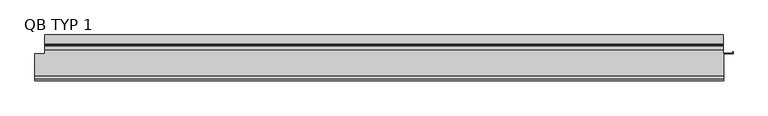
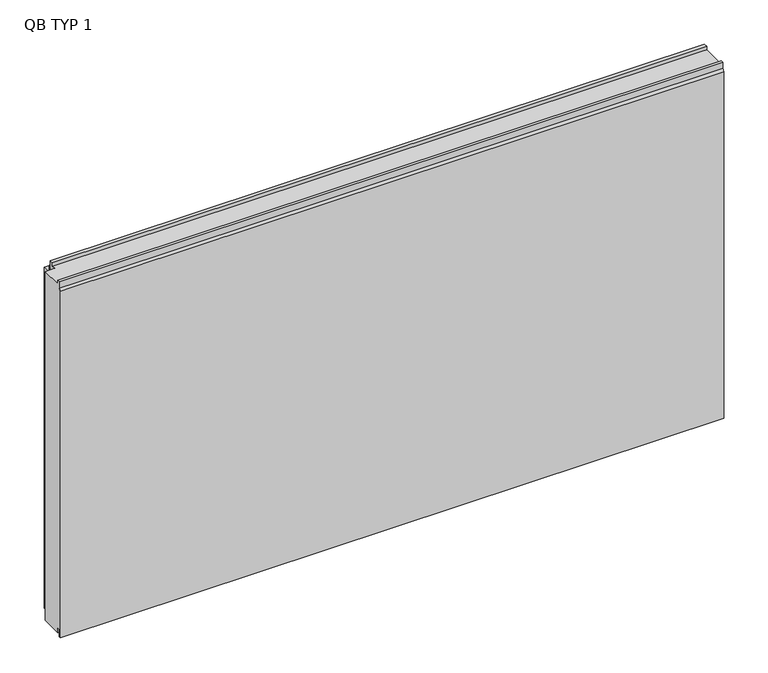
"""IFC4 building model written with IfcOpenShell, lengths in millimetres: plate geometry, TR_C_H_QBISS_Panel : QB TYP 1."""

import ifcopenshell
import ifcopenshell.guid

model = None  # the IFC model being written
_history = None  # IfcOwnerHistory: only IFC2X3 demands one
_inside = {}  # id of a spatial element -> (the spatial element, [elements in it])
_under = {}  # id of a project, library or spatial element -> (it, [spatial elements below it])
_declared = {}  # id of a project -> (the project, [libraries it declares])
_typed = {}  # id of a type object -> (the type object, [elements of that type])
_made_of = {}  # id of a material, layer set ... -> (it, [elements and type objects made of it])


def new_model(schema):
    """Start an empty IFC model of exactly this schema.

    Asked for "IFC4X3", IfcOpenShell would pick the latest addendum, in which some entities
    have other attributes; the version numbers below select the first issue.
    IFC2X3 requires an IfcOwnerHistory on every rooted entity: one is made here for all.
    """
    global model, _history
    if schema == "IFC4X3":
        model = ifcopenshell.file(schema_version=(4, 3, 0, 0))
    else:
        model = ifcopenshell.file(schema=schema)
    _inside.clear()
    _under.clear()
    _declared.clear()
    _typed.clear()
    _made_of.clear()
    _history = None
    if model.schema == "IFC2X3":
        org = make("IfcOrganization", Name="unknown")
        user = make(
            "IfcPersonAndOrganization",
            ThePerson=make("IfcPerson", FamilyName="unknown"),
            TheOrganization=org,
        )
        app = make(
            "IfcApplication",
            ApplicationDeveloper=org,
            Version="unknown",
            ApplicationFullName="unknown",
            ApplicationIdentifier="unknown",
        )
        _history = make(
            "IfcOwnerHistory",
            OwningUser=user,
            OwningApplication=app,
            ChangeAction="ADDED",
            CreationDate=0,
        )
    return model


def make(cls, **values):
    """One entity of the class cls with the attributes given. An attribute that is None is left unset."""
    return model.create_entity(
        cls, **{name: value for name, value in values.items() if value is not None}
    )


def rooted(cls, **values):
    """An entity with a GlobalId (a new one), such as an element, a storey or a relation."""
    return make(cls, GlobalId=ifcopenshell.guid.new(), OwnerHistory=_history, **values)


def si_unit(unit_type, name, prefix=None):
    """IfcSIUnit, for example si_unit("LENGTHUNIT", "METRE", prefix="MILLI")."""
    return make("IfcSIUnit", UnitType=unit_type, Prefix=prefix, Name=name)


def assignment(units):
    """IfcUnitAssignment: the units of a project."""
    return None if units is None else make("IfcUnitAssignment", Units=units)


def point(xyz):
    """IfcCartesianPoint."""
    return None if xyz is None else make("IfcCartesianPoint", Coordinates=xyz)


def direction(xyz):
    """IfcDirection."""
    return None if xyz is None else make("IfcDirection", DirectionRatios=xyz)


def frame(location, z_axis=None, x_axis=None):
    """IfcAxis2Placement3D, a coordinate frame: its origin and axes. An axis left out is left unset."""
    return make(
        "IfcAxis2Placement3D",
        Location=point(location),
        Axis=direction(z_axis),
        RefDirection=direction(x_axis),
    )


def origin():
    """The frame at (0, 0, 0) with its axes left unset."""
    return frame((0.0, 0.0, 0.0))


def place(relative_to, where):
    """IfcLocalPlacement: puts the frame where relative to a parent placement (None: the world)."""
    return make(
        "IfcLocalPlacement", PlacementRelTo=relative_to, RelativePlacement=where
    )


def context(
    kind, dimensions, precision=None, world=None, true_north=None, identifier=None
):
    """IfcGeometricRepresentationContext, for example the 3D "Model" context."""
    return make(
        "IfcGeometricRepresentationContext",
        ContextIdentifier=identifier,
        ContextType=kind,
        CoordinateSpaceDimension=dimensions,
        Precision=precision,
        WorldCoordinateSystem=world,
        TrueNorth=true_north,
    )


def project(units=None, contexts=None):
    """IfcProject with its units and contexts."""
    return rooted(
        "IfcProject",
        Name="project",
        RepresentationContexts=contexts,
        UnitsInContext=assignment(units),
    )


def spatial(cls, under=None, at=None, **own):
    """A site, building, storey or space (cls), placed at a placement, below another one or the project."""
    s = rooted(cls, ObjectPlacement=at, **own)
    if under is not None:
        _under.setdefault(under.id(), (under, []))[1].append(s)
    return s


def polyline(points):
    """IfcPolyline through the points."""
    return make("IfcPolyline", Points=[point(p) for p in points])


def outline(outer, holes=None, kind="AREA"):
    """IfcArbitraryClosedProfileDef: a profile drawn as a closed curve; with holes, ...WithVoids."""
    if holes is None:
        return make("IfcArbitraryClosedProfileDef", ProfileType=kind, OuterCurve=outer)
    return make(
        "IfcArbitraryProfileDefWithVoids",
        ProfileType=kind,
        OuterCurve=outer,
        InnerCurves=holes,
    )


def extrude(swept, where, along, depth):
    """IfcExtrudedAreaSolid: the profile swept, set in the frame where, extruded along a direction by depth."""
    return make(
        "IfcExtrudedAreaSolid",
        SweptArea=swept,
        Position=where,
        ExtrudedDirection=direction(along),
        Depth=depth,
    )


def faces_of(points, faces, orient=None, outer=None):
    """IfcFace entities. A face is a list of loops; a loop is a list of indices into points, from 0.

    orient and outer hold one flag for each loop. By default every Orientation is true, the
    first loop of a face is its IfcFaceOuterBound and the others are IfcFaceBound.
    """
    made = []
    for i, loops in enumerate(faces):
        bounds = []
        for j, loop in enumerate(loops):
            is_outer = j == 0 if outer is None else outer[i][j]
            bounds.append(
                make(
                    "IfcFaceOuterBound" if is_outer else "IfcFaceBound",
                    Bound=make("IfcPolyLoop", Polygon=[points[k] for k in loop]),
                    Orientation=True if orient is None else orient[i][j],
                )
            )
        made.append(make("IfcFace", Bounds=bounds))
    return made


def faceted_brep(points, faces, orient=None, outer=None, voids=None):
    """IfcFacetedBrep: a solid bounded by flat faces; with voids (closed shells), ...WithVoids."""
    shared = [point(p) for p in points]
    hull = make("IfcClosedShell", CfsFaces=faces_of(shared, faces, orient, outer))
    if voids is None:
        return make("IfcFacetedBrep", Outer=hull)
    return make(
        "IfcFacetedBrepWithVoids",
        Outer=hull,
        Voids=[
            make(cls, CfsFaces=faces_of(shared, fs, o, b)) for cls, fs, o, b in voids
        ],
    )


def shape(context_of_items, identifier, shape_type, items):
    """IfcShapeRepresentation: the items that make up one representation, for example the "Body"."""
    return make(
        "IfcShapeRepresentation",
        ContextOfItems=context_of_items,
        RepresentationIdentifier=identifier,
        RepresentationType=shape_type,
        Items=items,
    )


def source(mapping_origin, context_of_items, identifier, shape_type, items):
    """IfcRepresentationMap: a shape defined once, which mapped items show again and again."""
    return make(
        "IfcRepresentationMap",
        MappingOrigin=mapping_origin,
        MappedRepresentation=shape(context_of_items, identifier, shape_type, items),
    )


def transform(
    local_origin,
    x_axis=None,
    y_axis=None,
    z_axis=None,
    scale=None,
    scale2=None,
    scale3=None,
    uniform=True,
):
    """IfcCartesianTransformationOperator3D, or its non-uniform kind. x_axis, y_axis, z_axis: its Axis1, 2, 3."""
    if uniform:
        return make(
            "IfcCartesianTransformationOperator3D",
            Axis1=direction(x_axis),
            Axis2=direction(y_axis),
            LocalOrigin=point(local_origin),
            Scale=scale,
            Axis3=direction(z_axis),
        )
    return make(
        "IfcCartesianTransformationOperator3DnonUniform",
        Axis1=direction(x_axis),
        Axis2=direction(y_axis),
        LocalOrigin=point(local_origin),
        Scale=scale,
        Axis3=direction(z_axis),
        Scale2=scale2,
        Scale3=scale3,
    )


def mapped(mapping_source, mapping_target):
    """IfcMappedItem: shows the shape of a source again, moved by a transform."""
    return make(
        "IfcMappedItem", MappingSource=mapping_source, MappingTarget=mapping_target
    )


def made_of(thing, what):
    """Note that an element or type object is made of a material, layer set ...; save() writes the relation."""
    if what is not None:
        _made_of.setdefault(what.id(), (what, []))[1].append(thing)
    return thing


def element(
    cls,
    number,
    at=None,
    inside=None,
    cuts=None,
    type_object=None,
    material=None,
    context=None,
    identifier="Body",
    shape_type=None,
    held_by="IfcProductDefinitionShape",
    body=None,
    shapes=None,
    **own,
):
    """One element of the class cls, such as IfcWall. Its Tag is "e" and its number.

    at: its placement. inside: the storey or other place that contains it. cuts: it is an
    opening in that element (IfcRelVoidsElement). A single representation is given by context,
    identifier, shape_type and body (its items); several are given by shapes. held_by: the class
    of the entity that holds the representations. save() writes the other relations.
    """
    e = rooted(cls, Tag="e%d" % number, ObjectPlacement=at, **own)
    if body is not None:
        shapes = [shape(context, identifier, shape_type, body)]
    if shapes is not None:
        e.Representation = make(held_by, Representations=shapes)
    if inside is not None:
        _inside.setdefault(inside.id(), (inside, []))[1].append(e)
    if cuts is not None:
        rooted(
            "IfcRelVoidsElement", RelatingBuildingElement=cuts, RelatedOpeningElement=e
        )
    if type_object is not None:
        _typed.setdefault(type_object.id(), (type_object, []))[1].append(e)
    return made_of(e, material)


def aggregate(whole, parts):
    """IfcRelAggregates: a whole, such as a stair, and the parts it consists of."""
    return rooted("IfcRelAggregates", RelatingObject=whole, RelatedObjects=parts)


def save(model, path):
    """Write the relations noted so far, then the file.

    IfcRelAggregates (storeys below a building ...), IfcRelContainedInSpatialStructure (elements
    in a storey), IfcRelDefinesByType, IfcRelAssociatesMaterial and IfcRelDeclares: one each for
    every whole, place, type object, material and project.
    """
    for whole, parts in _under.values():
        aggregate(whole, parts)
    for where, things in _inside.values():
        rooted(
            "IfcRelContainedInSpatialStructure",
            RelatedElements=things,
            RelatingStructure=where,
        )
    for kind, things in _typed.values():
        rooted("IfcRelDefinesByType", RelatedObjects=things, RelatingType=kind)
    for what, things in _made_of.values():
        rooted("IfcRelAssociatesMaterial", RelatedObjects=things, RelatingMaterial=what)
    for by, libraries in _declared.values():
        rooted("IfcRelDeclares", RelatingContext=by, RelatedDefinitions=libraries)
    model.write(path)


def qb_typ_1_eb4f195e(model_context):
    return source(origin(), model_context, "Body", "SolidModel", [
        extrude(outline(polyline([(912.5, -49.0), (887.3, -49.0), (887.3, -48.2), (911.7, -48.2), (911.7, -44.0), (912.5, -44.0), (912.5, -49.0)])), frame((0.0, 0.0, 54.0), z_axis=(0.0, 0.0, 1.0), x_axis=(1.0, 0.0, 0.0)), (0.0, 0.0, 1.0), 862.0),
        faceted_brep([(887.5, -108.0, 1000.0), (887.5, -108.0, 1010.0), (887.5, -114.0, 1010.0), (887.5, -114.0, 992.0), (887.5, -120.0, 986.0), (887.5, -120.0, -8.0), (887.5, -114.0, -8.0), (887.5, -114.0, 13.0), (887.5, -108.0, 13.0), (887.5, -108.0, 0.0), (887.5, -49.0, 0.0), (887.5, -49.0, 1000.0), (-912.4, -108.0, 0.0), (-912.4, -108.0, 13.0), (-912.4, -114.0, 13.0), (-912.4, -114.0, -8.0), (-912.4, -120.0, -8.0), (-912.4, -120.0, 986.0), (-912.4, -114.0, 992.0), (-912.4, -114.0, 1010.0), (-912.4, -108.0, 1010.0), (-912.4, -108.0, 1000.0), (-912.4, -49.0, 1000.0), (-912.4, -49.0, 0.0), (-887.3, -49.0, 0.0), (-887.3, -39.0, 0.0), (887.3, -39.0, 0.0), (887.3, -49.0, 0.0), (-887.3, -39.0, 13.0), (887.3, -39.0, 13.0), (-887.3, -29.0, 13.0), (887.3, -29.0, 13.0), (-887.3, -29.0, -4.0), (887.3, -29.0, -4.0), (-887.3, 0.0, -4.0), (887.3, 0.0, -4.0), (-887.3, 0.0, 973.0), (887.3, 0.0, 973.0), (-887.3, -29.0, 973.0), (887.3, -29.0, 973.0), (-887.3, -29.0, 1010.0), (887.3, -29.0, 1010.0), (-887.3, -39.0, 1010.0), (887.3, -39.0, 1010.0), (-887.3, -39.0, 1000.0), (887.3, -39.0, 1000.0), (887.3, -49.0, 1000.0), (-887.3, -49.0, 1000.0)], [[[0, 1, 2, 3, 4, 5, 6, 7, 8, 9, 10, 11]], [[12, 13, 14, 15, 16, 17, 18, 19, 20, 21, 22, 23]], [[9, 12, 23, 24, 25, 26, 27, 10]], [[26, 25, 28, 29]], [[29, 28, 30, 31]], [[31, 30, 32, 33]], [[33, 32, 34, 35]], [[35, 34, 36, 37]], [[37, 36, 38, 39]], [[39, 38, 40, 41]], [[41, 40, 42, 43]], [[43, 42, 44, 45]], [[21, 0, 11, 46, 45, 44, 47, 22]], [[1, 0, 21, 20]], [[2, 1, 20, 19]], [[3, 2, 19, 18]], [[4, 3, 18, 17]], [[5, 4, 17, 16]], [[6, 5, 16, 15]], [[7, 6, 15, 14]], [[8, 7, 14, 13]], [[9, 8, 13, 12]], [[47, 24, 23, 22]], [[24, 47, 44, 42, 40, 38, 36, 34, 32, 30, 28, 25]], [[46, 27, 26, 29, 31, 33, 35, 37, 39, 41, 43, 45]], [[27, 46, 11, 10]]]),
        extrude(outline(polyline([(-24.0, 994.5), (-24.0, 974.5), (-25.4998317, 974.5), (-25.4998317, 981.3023028), (-27.9998293, 981.3023028), (-27.9998293, 980.5023028), (-28.7998428, 980.5023028), (-28.7998428, 988.5023593), (-27.9998293, 988.5023593), (-27.9998293, 987.7023593), (-25.4998317, 987.7023593), (-25.4998317, 994.5), (-24.0, 994.5)])), frame((-887.3, 0.0, 0.0), z_axis=(1.0, 0.0, 0.0), x_axis=(0.0, 1.0, 0.0)), (0.0, 0.0, 1.0), 1774.6),
    ])


if __name__ == "__main__":
    model = new_model("IFC4")
    model_context = context("Model", 3, world=origin())
    ifc_project = project(units=[si_unit("LENGTHUNIT", "METRE", prefix="MILLI")], contexts=[model_context])
    site = spatial("IfcSite", under=ifc_project)
    building = spatial("IfcBuilding", under=site)
    placement = place(None, origin())
    qb_typ_1_shape = qb_typ_1_eb4f195e(model_context)
    element("IfcPlate", 1, ObjectType="TR_C_H_QBISS_Panel : QB TYP 1", at=placement, inside=building, context=model_context, shape_type="MappedRepresentation", body=[
        mapped(qb_typ_1_shape, transform((0.0, 0.0, 0.0), x_axis=(1.0, 0.0, 0.0), y_axis=(0.0, 1.0, 0.0), z_axis=(0.0, 0.0, 1.0))),
    ])
    save(model, "model.ifc")
